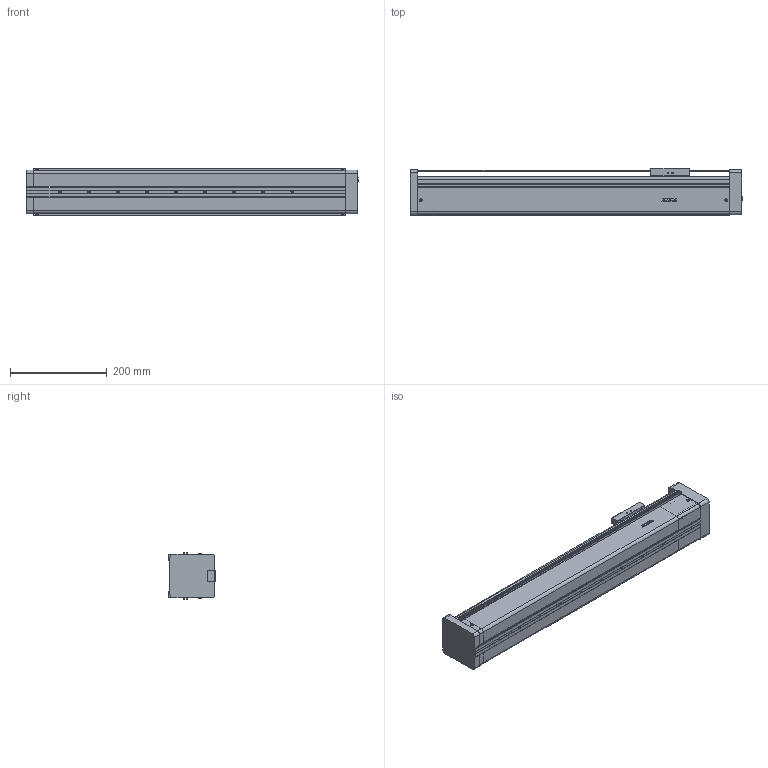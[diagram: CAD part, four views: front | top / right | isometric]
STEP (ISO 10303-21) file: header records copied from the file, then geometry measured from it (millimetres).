
FILE_DESCRIPTION(/* description */ (''),/* implementation_level */ '2;1');
FILE_NAME(/* name */ 'D:\混合母檔20191031\混和母檔\混和母檔\bin\Debug\Download\3D\KE905C-450AF0\KE905C-450AF0.stp',/* time_stamp */ '2019-11-04T14:18:19+08:00',/* author */ ('user'),/* organization */ (''),/* preprocessor_version */ 'ST-DEVELOPER v16.13',/* originating_system */ 'Autodesk Inventor 2018',/* authorisation */ '');
FILE_SCHEMA (('AUTOMOTIVE_DESIGN { 1 0 10303 214 3 1 1 }'));
Length unit declared in the file: millimetre
Products named in the file (3): KE905C-450AF0; KE90-F0-BP; KE90-SL
Assembly tree (2 placements, depth 2):
  KE905C-450AF0
    KE90-F0-BP
    KE90-SL
Bounding box: 686 x 98 x 98.4 mm (x, y, z)
Volume: 4774256.6 mm3; surface area: 443656.8 mm2
Topology: 3 solids, 22 shells, 879 faces, 2327 edges, 1535 vertices
Faces by surface type: plane 494, bspline 136, cone 119, cylinder 82, torus 40, sphere 8
Full cylindrical faces by diameter (mm): 2.5 x16, 3 x2, 3.3 x4, 4.2 x4, 4.5 x6, 4.917 x9, 5 x9, 8 x7, 46 x1, 50 x1
Entity records: 30648 total; most frequent: CARTESIAN_POINT 9574, ORIENTED_EDGE 4370, DIRECTION 3861, EDGE_CURVE 2185, VERTEX_POINT 1495, AXIS2_PLACEMENT_3D 1308, LINE 1245, VECTOR 1245
